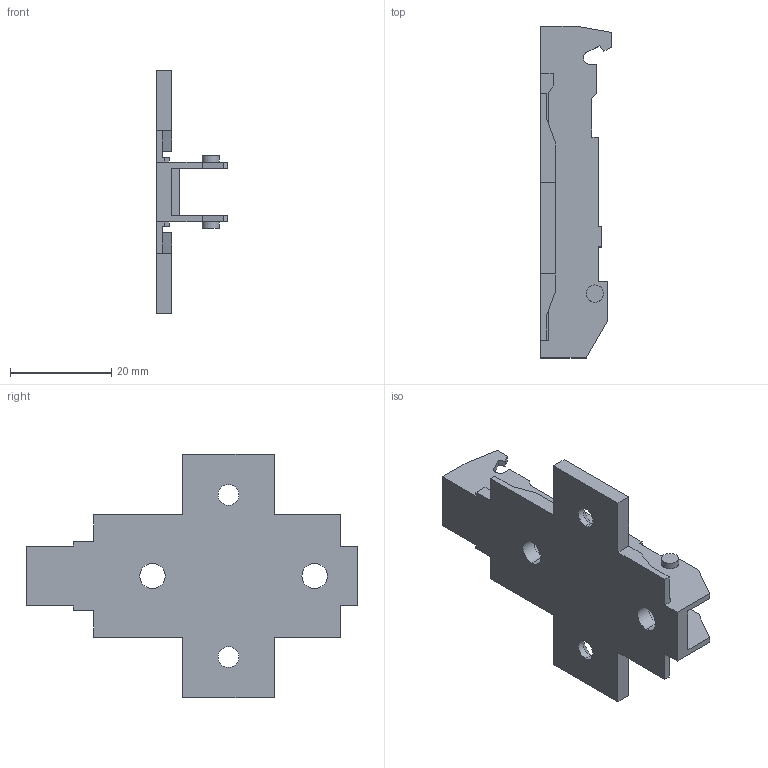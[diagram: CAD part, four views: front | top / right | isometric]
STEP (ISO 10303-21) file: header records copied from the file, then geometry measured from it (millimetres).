
FILE_DESCRIPTION (( 'STEP AP214' ), '1' );
FILE_NAME ('1D_Kreuzmontageplatte 37_32_Spax_3,5.step', '2010-11-18T10:18:41', ( 'grass' ), ( '' ), 'SwSTEP 2.0', 'SolidWorks 2010', '' );
FILE_SCHEMA (( 'AUTOMOTIVE_DESIGN' ));
Length unit declared in the file: millimetre
Products named in the file (1): 1D_Kreuzmontageplatte 37_32_Spax_3,5
Bounding box: 14 x 65.5 x 48 mm (x, y, z)
Volume: 6197.6 mm3; surface area: 6821.6 mm2
Topology: 1 solids, 1 shells, 106 faces, 302 edges, 200 vertices
Faces by surface type: plane 84, cylinder 18, cone 4
Entity records: 3464 total; most frequent: CARTESIAN_POINT 609, ORIENTED_EDGE 604, DIRECTION 556, EDGE_CURVE 302, LINE 262, VECTOR 262, VERTEX_POINT 200, AXIS2_PLACEMENT_3D 147
